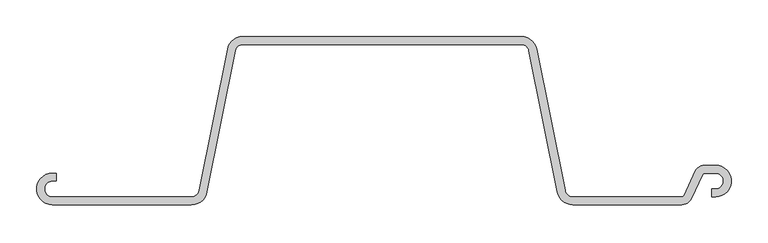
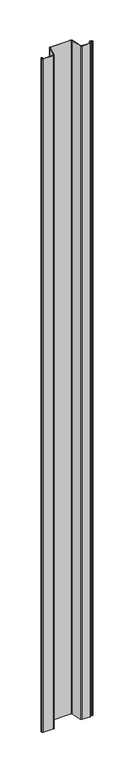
"""IFC4 building model written with IfcOpenShell, lengths in millimetres: proxy geometry, 鋼矢板10H型 : 鋼矢板10H型."""

from ifc_helpers import new_model, si_unit, point, frame, frame_2d, origin, place, context, project, spatial, polyline, circle_curve, trimmed, segment, composite_curve, outline, extrude, source, transform, mapped, element, save


def generic_models_a74f638f(model_context):
    return source(origin(), model_context, "Body", "SweptSolid", [
        extrude(outline(composite_curve([segment(trimmed(circle_curve(frame_2d((409.1972607, -101.1142857)), 13.8857143), [point((421.7819917, -106.9826421))], [point((409.1972607, -115.0))], False, "CARTESIAN"), True, "CONTINUOUS"), segment(polyline([(409.1972607, -115.0), (260.2008232, -115.0)]), True, "CONTINUOUS"), segment(trimmed(circle_curve(frame_2d((260.2008232, -93.4)), 21.6), [point((260.2008232, -115.0))], [point((239.0202806, -97.6361085))], False, "CARTESIAN"), True, "CONTINUOUS"), segment(polyline([(239.0202806, -97.6361085), (200.3894481, 95.5180543)]), True, "CONTINUOUS"), segment(trimmed(circle_curve(frame_2d((189.7991768, 93.4)), 10.8), [point((200.3894481, 95.5180543))], [point((189.7991768, 104.2))], True, "CARTESIAN"), True, "CONTINUOUS"), segment(polyline([(189.7991768, 104.2), (-189.7991768, 104.2)]), True, "CONTINUOUS"), segment(trimmed(circle_curve(frame_2d((-189.7991768, 93.4)), 10.8), [point((-189.7991768, 104.2))], [point((-200.3894481, 95.5180543))], True, "CARTESIAN"), True, "CONTINUOUS"), segment(polyline([(-200.3894481, 95.5180543), (-239.0202806, -97.6361085)]), True, "CONTINUOUS"), segment(trimmed(circle_curve(frame_2d((-260.2008232, -93.4)), 21.6), [point((-239.0202806, -97.6361085))], [point((-260.2008232, -115.0))], False, "CARTESIAN"), True, "CONTINUOUS"), segment(polyline([(-260.2008232, -115.0), (-450.0, -115.0)]), True, "CONTINUOUS"), segment(trimmed(circle_curve(frame_2d((-450.0, -93.4)), 21.6), [point((-450.0, -115.0))], [point((-450.0, -71.8))], False, "CARTESIAN"), True, "CONTINUOUS"), segment(polyline([(-450.0, -71.8), (-445.0, -71.8), (-445.0, -82.6), (-450.0, -82.6)]), True, "CONTINUOUS"), segment(trimmed(circle_curve(frame_2d((-450.0, -93.4)), 10.8), [point((-450.0, -82.6))], [point((-450.0, -104.2))], True, "CARTESIAN"), True, "CONTINUOUS"), segment(polyline([(-450.0, -104.2), (-260.2008232, -104.2)]), True, "CONTINUOUS"), segment(trimmed(circle_curve(frame_2d((-260.2008232, -93.4)), 10.8), [point((-260.2008232, -104.2))], [point((-249.6105519, -95.5180543))], True, "CARTESIAN"), True, "CONTINUOUS"), segment(polyline([(-249.6105519, -95.5180543), (-210.9797194, 97.6361085)]), True, "CONTINUOUS"), segment(trimmed(circle_curve(frame_2d((-189.7991768, 93.4)), 21.6), [point((-210.9797194, 97.6361085))], [point((-189.7991768, 115.0))], False, "CARTESIAN"), True, "CONTINUOUS"), segment(polyline([(-189.7991768, 115.0), (189.7991768, 115.0)]), True, "CONTINUOUS"), segment(trimmed(circle_curve(frame_2d((189.7991768, 93.4)), 21.6), [point((189.7991768, 115.0))], [point((210.9797194, 97.6361085))], False, "CARTESIAN"), True, "CONTINUOUS"), segment(polyline([(210.9797194, 97.6361085), (249.6105519, -95.5180543)]), True, "CONTINUOUS"), segment(trimmed(circle_curve(frame_2d((260.2008232, -93.4)), 10.8), [point((249.6105519, -95.5180543))], [point((260.2008232, -104.2))], True, "CARTESIAN"), True, "CONTINUOUS"), segment(polyline([(260.2008232, -104.2), (409.1972607, -104.2)]), True, "CONTINUOUS"), segment(trimmed(circle_curve(frame_2d((409.1972607, -101.1142857)), 3.0857143), [point((409.1972607, -104.2))], [point((411.9938676, -102.4183649))], True, "CARTESIAN"), True, "CONTINUOUS"), segment(polyline([(411.9938676, -102.4183649), (427.569013, -69.0173579)]), True, "CONTINUOUS"), segment(trimmed(circle_curve(frame_2d((440.153744, -74.8857143)), 13.8857143), [point((427.569013, -69.0173579))], [point((440.153744, -61.0))], False, "CARTESIAN"), True, "CONTINUOUS"), segment(polyline([(440.153744, -61.0), (455.0, -61.0)]), True, "CONTINUOUS"), segment(trimmed(circle_curve(frame_2d((455.0, -82.6)), 21.6), [point((455.0, -61.0))], [point((455.0, -104.2))], False, "CARTESIAN"), True, "CONTINUOUS"), segment(polyline([(455.0, -104.2), (450.0, -104.2), (450.0, -93.4), (455.0, -93.4)]), True, "CONTINUOUS"), segment(trimmed(circle_curve(frame_2d((455.0, -82.6)), 10.8), [point((455.0, -93.4))], [point((455.0, -71.8))], True, "CARTESIAN"), True, "CONTINUOUS"), segment(polyline([(455.0, -71.8), (440.153744, -71.8)]), True, "CONTINUOUS"), segment(trimmed(circle_curve(frame_2d((440.153744, -74.8857143)), 3.0857143), [point((440.153744, -71.8))], [point((437.3571371, -73.5816351))], True, "CARTESIAN"), True, "CONTINUOUS"), segment(polyline([(437.3571371, -73.5816351), (421.7819917, -106.9826421)]), True, "CONTINUOUS")], self_intersect=False)), frame((0.0, 0.0, -13000.0), z_axis=(0.0, 0.0, 1.0), x_axis=(1.0, 0.0, 0.0)), (0.0, 0.0, 1.0), 13000.0),
    ])


if __name__ == "__main__":
    model = new_model("IFC4")
    model_context = context("Model", 3, world=origin())
    ifc_project = project(units=[si_unit("LENGTHUNIT", "METRE", prefix="MILLI")], contexts=[model_context])
    site = spatial("IfcSite", under=ifc_project)
    building = spatial("IfcBuilding", under=site)
    placement = place(None, origin())
    generic_models_shape = generic_models_a74f638f(model_context)
    element("IfcBuildingElementProxy", 1, Name="鋼矢板10H型 : 鋼矢板10H型", ObjectType="鋼矢板10H型 : 鋼矢板10H型", at=placement, inside=building, context=model_context, shape_type="MappedRepresentation", body=[
        mapped(generic_models_shape, transform((0.0, 0.0, 0.0), x_axis=(1.0, 0.0, 0.0), y_axis=(0.0, 1.0, 0.0), z_axis=(0.0, 0.0, 1.0))),
    ])
    save(model, "model.ifc")
